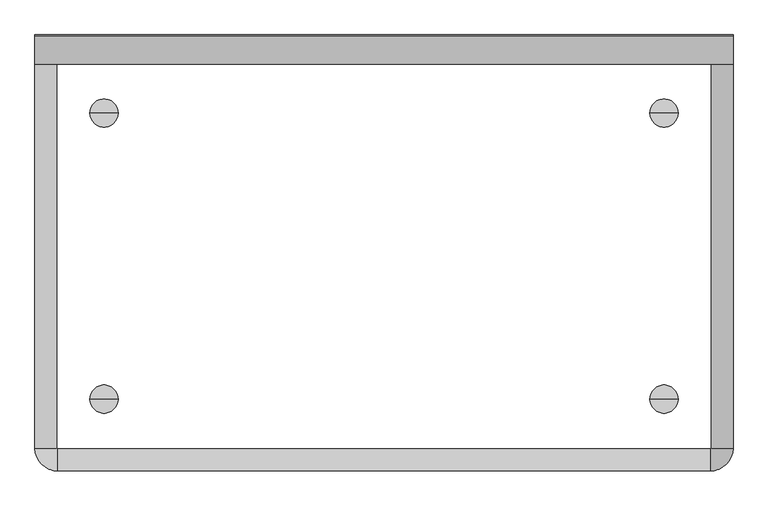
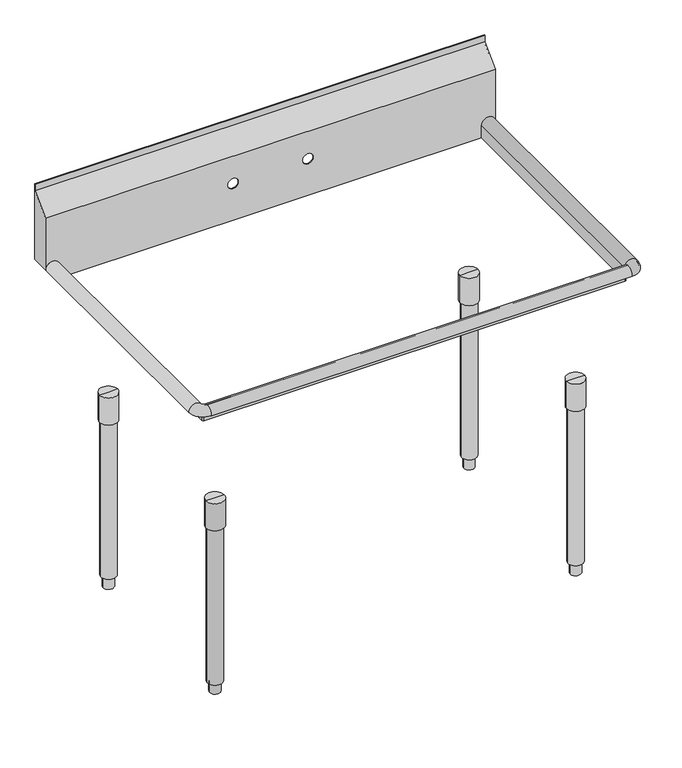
"""IFC4 building model written with IfcOpenShell, lengths in millimetres: flow terminal geometry, equip-sink-elkaySSP-economy-DBL : ByType."""

from ifc_helpers import new_model, si_unit, point, frame, origin, place, context, project, spatial, polyline, circle_curve, ellipse_curve, trimmed, source, transform, mapped, element, save
from ifc_brep_helpers import plane_surface, cylinder_surface, revolved_surface, advanced_brep


def flow_terminal_d265f877(model_context):
    return source(origin(), model_context, "Body", "AdvancedBrep", [
        advanced_brep(
        [(-608.0125, 331.7875, 892.175), (-608.0125, 381.0, 892.175), (-608.0125, 381.0, 1088.367436), (-608.0125, 331.7875, 1039.154936), (-609.6, 330.2, 892.175), (-609.6, 330.2, 1039.8125), (-609.6, 379.4125, 1089.025), (-609.6, 379.4125, 1108.075), (-609.6, 381.0, 1108.075), (-609.6, 381.0, 892.175), (-571.5, 331.7875, 892.175), (-571.5, 330.2, 892.175), (609.6, 381.0, 1108.075), (609.6, 379.4125, 1108.075), (609.6, 379.4125, 1089.025), (609.6, 330.2, 1039.8125), (609.6, 330.2, 892.175), (609.6, 381.0, 892.175), (608.0125, 381.0, 1088.367436), (608.0125, 381.0, 892.175), (608.0125, 331.7875, 892.175), (608.0125, 331.7875, 1039.154936), (571.5, 330.2, 892.175), (571.5, 331.7875, 892.175), (571.5, 330.2, 857.25), (571.5, 331.7875, 857.25), (-571.5, 331.7875, 857.25), (-571.5, 330.2, 857.25), (-115.8875, 331.7875, 962.025), (-87.3125, 331.7875, 962.025), (87.3125, 331.7875, 962.025), (115.8875, 331.7875, 962.025), (-87.3125, 330.2, 962.025), (-115.8875, 330.2, 962.025), (115.8875, 330.2, 962.025), (87.3125, 330.2, 962.025)],
        [
            (0, 1),
            (1, 2),
            (2, 3),
            (3, 0),
            (4, 5),
            (5, 6),
            (6, 7),
            (7, 8),
            (8, 9),
            (9, 4),
            (0, 10),
            (10, 11),
            (11, 4),
            (9, 1),
            (12, 13),
            (13, 14),
            (14, 15),
            (15, 16),
            (16, 17),
            (17, 12),
            (18, 19),
            (19, 20),
            (20, 21),
            (21, 18),
            (16, 22),
            (22, 23),
            (23, 20),
            (19, 17),
            (24, 25),
            (25, 23),
            (22, 24),
            (26, 27),
            (27, 11),
            (10, 26),
            (24, 27),
            (26, 25),
            (3, 21),
            (28, 29, circle_curve(frame((-101.6, 331.7875, 962.025), z_axis=(0.0, -1.0, 0.0), x_axis=(1.0, 0.0, 0.0)), 14.2875)),
            (29, 28, circle_curve(frame((-101.6, 331.7875, 962.025), z_axis=(0.0, -1.0, 0.0), x_axis=(1.0, 0.0, 0.0)), 14.2875)),
            (30, 31, circle_curve(frame((101.6, 331.7875, 962.025), z_axis=(0.0, -1.0, 0.0), x_axis=(1.0, 0.0, 0.0)), 14.2875)),
            (31, 30, circle_curve(frame((101.6, 331.7875, 962.025), z_axis=(0.0, -1.0, 0.0), x_axis=(1.0, 0.0, 0.0)), 14.2875)),
            (2, 18),
            (8, 12),
            (5, 15),
            (14, 6),
            (32, 33, circle_curve(frame((-101.6, 330.2, 962.025), z_axis=(0.0, 1.0, 0.0), x_axis=(1.0, 0.0, 0.0)), 14.2875)),
            (33, 32, circle_curve(frame((-101.6, 330.2, 962.025), z_axis=(0.0, 1.0, 0.0), x_axis=(1.0, 0.0, 0.0)), 14.2875)),
            (34, 35, circle_curve(frame((101.6, 330.2, 962.025), z_axis=(0.0, 1.0, 0.0), x_axis=(1.0, 0.0, 0.0)), 14.2875)),
            (35, 34, circle_curve(frame((101.6, 330.2, 962.025), z_axis=(0.0, 1.0, 0.0), x_axis=(1.0, 0.0, 0.0)), 14.2875)),
            (7, 13),
            (32, 29),
            (28, 33),
            (34, 31),
            (30, 35),
        ],
        [
            plane_surface(frame((-608.0125, 331.7875, 1039.154936), z_axis=(1.0, 0.0, 0.0), x_axis=(0.0, 0.0, -1.0))),
            plane_surface(frame((-609.6, 331.7875, 1039.154936), z_axis=(-1.0, 0.0, 0.0), x_axis=(0.0, 0.0, 1.0))),
            plane_surface(frame((-608.0125, 331.7875, 892.175), z_axis=(0.0, 0.0, -1.0), x_axis=(-1.0, 0.0, 0.0))),
            plane_surface(frame((609.6, 331.7875, 1039.154936), z_axis=(1.0, 0.0, 0.0), x_axis=(0.0, 0.0, -1.0))),
            plane_surface(frame((608.0125, 331.7875, 1039.154936), z_axis=(-1.0, 0.0, 0.0), x_axis=(0.0, 0.0, 1.0))),
            plane_surface(frame((609.6, 331.7875, 892.175), z_axis=(0.0, 0.0, -1.0), x_axis=(-1.0, 0.0, 0.0))),
            plane_surface(frame((571.5, 330.2, 857.25), z_axis=(1.0, 0.0, 0.0), x_axis=(0.0, 1.0, 0.0))),
            plane_surface(frame((-571.5, 330.2, 857.25), z_axis=(-1.0, 0.0, 0.0), x_axis=(0.0, -1.0, 0.0))),
            plane_surface(frame((571.5, 330.2, 857.25), z_axis=(0.0, 0.0, -1.0), x_axis=(-1.0, 0.0, 0.0))),
            plane_surface(frame((571.5, 331.7875, 857.25), z_axis=(0.0, 1.0, 0.0), x_axis=(-1.0, 0.0, 0.0))),
            plane_surface(frame((571.5, 331.7875, 1039.154936), z_axis=(0.0, 0.7071067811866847, -0.7071067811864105), x_axis=(-1.0, 0.0, 0.0))),
            plane_surface(frame((571.5, 381.0, 1088.367436), z_axis=(0.0, 1.0, 0.0), x_axis=(-1.0, 0.0, 0.0))),
            plane_surface(frame((571.5, 379.4125, 1089.025), z_axis=(0.0, -0.7071067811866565, 0.7071067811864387), x_axis=(-1.0, 0.0, 0.0))),
            plane_surface(frame((571.5, 330.2, 1039.8125), z_axis=(0.0, -1.0, 0.0), x_axis=(-1.0, 0.0, 0.0))),
            plane_surface(frame((571.5, 381.0, 1108.075), z_axis=(0.0, 0.0, 1.0), x_axis=(-1.0, 0.0, 0.0))),
            plane_surface(frame((571.5, 379.4125, 1108.075), z_axis=(0.0, -1.0, 0.0), x_axis=(-1.0, 0.0, 0.0))),
            revolved_surface(polyline([(-87.3125, 330.2, 962.025), (-87.3125, 331.7875, 962.025)]), (-101.6, 331.7875, 962.025), (0.0, -1.0, 0.0)),
            revolved_surface(polyline([(115.88749999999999, 330.2, 962.025), (115.88749999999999, 331.7875, 962.025)]), (101.6, 331.7875, 962.025), (0.0, -1.0, 0.0)),
        ],
        [
            (0, [[1, 2, 3, 4]]),
            (1, [[5, 6, 7, 8, 9, 10]]),
            (2, [[-1, 11, 12, 13, -10, 14]]),
            (3, [[15, 16, 17, 18, 19, 20]]),
            (4, [[21, 22, 23, 24]]),
            (5, [[-19, 25, 26, 27, -22, 28]]),
            (6, [[29, 30, -26, 31]]),
            (7, [[32, 33, -12, 34]]),
            (8, [[-29, 35, -32, 36]]),
            (9, [[-36, -34, -11, -4, 37, -23, -27, -30], [38, 39], [40, 41]]),
            (10, [[-37, -3, 42, -24]]),
            (11, [[-42, -2, -14, -9, 43, -20, -28, -21]]),
            (12, [[-6, 44, -17, 45]]),
            (13, [[-35, -31, -25, -18, -44, -5, -13, -33], [46, 47], [48, 49]]),
            (14, [[-43, -8, 50, -15]]),
            (15, [[-50, -7, -45, -16]]),
            (16, [[51, -38, 52, -46]]),
            (16, [[-51, -47, -52, -39]]),
            (17, [[53, -40, 54, -48]]),
            (17, [[-53, -49, -54, -41]]),
        ],
    ),
        advanced_brep(
        [(-509.5875, 244.475, 30.1625), (-468.3125, 244.475, 30.1625), (-468.3125, 244.475, 474.98), (-509.5875, 244.475, 474.98), (-464.312, 244.475, 474.98), (-513.588, 244.475, 474.98), (-464.312, 244.475, 552.45), (-513.588, 244.475, 552.45), (-488.95, 244.475, 552.45), (-488.95, 244.475, -3.175), (-474.6625, 244.475, -3.175), (-503.2375, 244.475, -3.175), (-474.6625, 244.475, 30.1625), (-503.2375, 244.475, 30.1625)],
        [
            (0, 1, circle_curve(frame((-488.95, 244.475, 30.1625), z_axis=(0.0, 0.0, 1.0), x_axis=(1.0, 0.0, 0.0)), 20.6375)),
            (1, 2),
            (2, 3, circle_curve(frame((-488.95, 244.475, 474.98), z_axis=(0.0, 0.0, -1.0), x_axis=(1.0, 0.0, 0.0)), 20.6375)),
            (3, 0),
            (1, 0, circle_curve(frame((-488.95, 244.475, 30.1625), z_axis=(0.0, 0.0, 1.0), x_axis=(1.0, 0.0, 0.0)), 20.6375)),
            (3, 2, circle_curve(frame((-488.95, 244.475, 474.98), z_axis=(0.0, 0.0, -1.0), x_axis=(1.0, 0.0, 0.0)), 20.6375)),
            (2, 4),
            (4, 5, circle_curve(frame((-488.95, 244.475, 474.98), z_axis=(0.0, 0.0, -1.0), x_axis=(1.0, 0.0, 0.0)), 24.638)),
            (5, 3),
            (5, 4, circle_curve(frame((-488.95, 244.475, 474.98), z_axis=(0.0, 0.0, -1.0), x_axis=(1.0, 0.0, 0.0)), 24.638)),
            (4, 6),
            (6, 7, circle_curve(frame((-488.95, 244.475, 552.45), z_axis=(0.0, 0.0, -1.0), x_axis=(1.0, 0.0, 0.0)), 24.638)),
            (7, 5),
            (7, 6, circle_curve(frame((-488.95, 244.475, 552.45), z_axis=(0.0, 0.0, -1.0), x_axis=(1.0, 0.0, 0.0)), 24.638)),
            (6, 8),
            (8, 7),
            (9, 10),
            (10, 11, circle_curve(frame((-488.95, 244.475, -3.175), z_axis=(0.0, 0.0, -1.0), x_axis=(1.0, 0.0, 0.0)), 14.2875)),
            (11, 9),
            (11, 10, circle_curve(frame((-488.95, 244.475, -3.175), z_axis=(0.0, 0.0, -1.0), x_axis=(1.0, 0.0, 0.0)), 14.2875)),
            (10, 12),
            (12, 13, circle_curve(frame((-488.95, 244.475, 30.1625), z_axis=(0.0, 0.0, -1.0), x_axis=(1.0, 0.0, 0.0)), 14.2875)),
            (13, 11),
            (13, 12, circle_curve(frame((-488.95, 244.475, 30.1625), z_axis=(0.0, 0.0, -1.0), x_axis=(1.0, 0.0, 0.0)), 14.2875)),
            (12, 1),
            (0, 13),
        ],
        [
            cylinder_surface(frame((-488.95, 244.475, 552.45), z_axis=(0.0, 0.0, -1.0), x_axis=(1.0, 0.0, 0.0)), 20.6375),
            plane_surface(frame((-488.95, 244.475, 474.98), z_axis=(0.0, 0.0, -1.0), x_axis=(1.0, 0.0, 0.0))),
            cylinder_surface(frame((-488.95, 244.475, 552.45), z_axis=(0.0, 0.0, -1.0), x_axis=(1.0, 0.0, 0.0)), 24.638),
            plane_surface(frame((-488.95, 244.475, 552.45), z_axis=(0.0, 0.0, 1.0), x_axis=(1.0, 0.0, 0.0))),
            plane_surface(frame((-488.95, 244.475, -3.175), z_axis=(0.0, 0.0, -1.0), x_axis=(1.0, 0.0, 0.0))),
            cylinder_surface(frame((-488.95, 244.475, 552.45), z_axis=(0.0, 0.0, -1.0), x_axis=(1.0, 0.0, 0.0)), 14.2875),
            plane_surface(frame((-488.95, 244.475, 30.1625), z_axis=(0.0, 0.0, -1.0), x_axis=(1.0, 0.0, 0.0))),
        ],
        [
            (0, [[1, 2, 3, 4]]),
            (0, [[5, -4, 6, -2]]),
            (1, [[-3, 7, 8, 9]]),
            (1, [[-6, -9, 10, -7]]),
            (2, [[-8, 11, 12, 13]]),
            (2, [[-10, -13, 14, -11]]),
            (3, [[-12, 15, 16]]),
            (3, [[-14, -16, -15]]),
            (4, [[17, 18, 19]]),
            (4, [[-19, 20, -17]]),
            (5, [[-18, 21, 22, 23]]),
            (5, [[-20, -23, 24, -21]]),
            (6, [[-22, 25, -1, 26]]),
            (6, [[-24, -26, -5, -25]]),
        ],
    ),
        advanced_brep(
        [(468.3125, 244.475, 30.1625), (509.5875, 244.475, 30.1625), (509.5875, 244.475, 474.98), (468.3125, 244.475, 474.98), (513.588, 244.475, 474.98), (464.312, 244.475, 474.98), (513.588, 244.475, 552.45), (464.312, 244.475, 552.45), (488.95, 244.475, 552.45), (488.95, 244.475, -3.175), (503.2375, 244.475, -3.175), (474.6625, 244.475, -3.175), (503.2375, 244.475, 30.1625), (474.6625, 244.475, 30.1625)],
        [
            (0, 1, circle_curve(frame((488.95, 244.475, 30.1625), z_axis=(0.0, 0.0, 1.0), x_axis=(1.0, 0.0, 0.0)), 20.6375)),
            (1, 2),
            (2, 3, circle_curve(frame((488.95, 244.475, 474.98), z_axis=(0.0, 0.0, -1.0), x_axis=(1.0, 0.0, 0.0)), 20.6375)),
            (3, 0),
            (1, 0, circle_curve(frame((488.95, 244.475, 30.1625), z_axis=(0.0, 0.0, 1.0), x_axis=(1.0, 0.0, 0.0)), 20.6375)),
            (3, 2, circle_curve(frame((488.95, 244.475, 474.98), z_axis=(0.0, 0.0, -1.0), x_axis=(1.0, 0.0, 0.0)), 20.6375)),
            (2, 4),
            (4, 5, circle_curve(frame((488.95, 244.475, 474.98), z_axis=(0.0, 0.0, -1.0), x_axis=(1.0, 0.0, 0.0)), 24.638)),
            (5, 3),
            (5, 4, circle_curve(frame((488.95, 244.475, 474.98), z_axis=(0.0, 0.0, -1.0), x_axis=(1.0, 0.0, 0.0)), 24.638)),
            (4, 6),
            (6, 7, circle_curve(frame((488.95, 244.475, 552.45), z_axis=(0.0, 0.0, -1.0), x_axis=(1.0, 0.0, 0.0)), 24.638)),
            (7, 5),
            (7, 6, circle_curve(frame((488.95, 244.475, 552.45), z_axis=(0.0, 0.0, -1.0), x_axis=(1.0, 0.0, 0.0)), 24.638)),
            (6, 8),
            (8, 7),
            (9, 10),
            (10, 11, circle_curve(frame((488.95, 244.475, -3.175), z_axis=(0.0, 0.0, -1.0), x_axis=(1.0, 0.0, 0.0)), 14.2875)),
            (11, 9),
            (11, 10, circle_curve(frame((488.95, 244.475, -3.175), z_axis=(0.0, 0.0, -1.0), x_axis=(1.0, 0.0, 0.0)), 14.2875)),
            (10, 12),
            (12, 13, circle_curve(frame((488.95, 244.475, 30.1625), z_axis=(0.0, 0.0, -1.0), x_axis=(1.0, 0.0, 0.0)), 14.2875)),
            (13, 11),
            (13, 12, circle_curve(frame((488.95, 244.475, 30.1625), z_axis=(0.0, 0.0, -1.0), x_axis=(1.0, 0.0, 0.0)), 14.2875)),
            (12, 1),
            (0, 13),
        ],
        [
            cylinder_surface(frame((488.95, 244.475, 552.45), z_axis=(0.0, 0.0, -1.0), x_axis=(1.0, 0.0, 0.0)), 20.6375),
            plane_surface(frame((488.95, 244.475, 474.98), z_axis=(0.0, 0.0, -1.0), x_axis=(1.0, 0.0, 0.0))),
            cylinder_surface(frame((488.95, 244.475, 552.45), z_axis=(0.0, 0.0, -1.0), x_axis=(1.0, 0.0, 0.0)), 24.638),
            plane_surface(frame((488.95, 244.475, 552.45), z_axis=(0.0, 0.0, 1.0), x_axis=(1.0, 0.0, 0.0))),
            plane_surface(frame((488.95, 244.475, -3.175), z_axis=(0.0, 0.0, -1.0), x_axis=(1.0, 0.0, 0.0))),
            cylinder_surface(frame((488.95, 244.475, 552.45), z_axis=(0.0, 0.0, -1.0), x_axis=(1.0, 0.0, 0.0)), 14.2875),
            plane_surface(frame((488.95, 244.475, 30.1625), z_axis=(0.0, 0.0, -1.0), x_axis=(1.0, 0.0, 0.0))),
        ],
        [
            (0, [[1, 2, 3, 4]]),
            (0, [[5, -4, 6, -2]]),
            (1, [[-3, 7, 8, 9]]),
            (1, [[-6, -9, 10, -7]]),
            (2, [[-8, 11, 12, 13]]),
            (2, [[-10, -13, 14, -11]]),
            (3, [[-12, 15, 16]]),
            (3, [[-14, -16, -15]]),
            (4, [[17, 18, 19]]),
            (4, [[-19, 20, -17]]),
            (5, [[-18, 21, 22, 23]]),
            (5, [[-20, -23, 24, -21]]),
            (6, [[-22, 25, -1, 26]]),
            (6, [[-24, -26, -5, -25]]),
        ],
    ),
        advanced_brep(
        [(468.3125, -255.5875, 30.1625), (509.5875, -255.5875, 30.1625), (509.5875, -255.5875, 474.98), (468.3125, -255.5875, 474.98), (513.588, -255.5875, 474.98), (464.312, -255.5875, 474.98), (513.588, -255.5875, 552.45), (464.312, -255.5875, 552.45), (488.95, -255.5875, 552.45), (488.95, -255.5875, -3.175), (503.2375, -255.5875, -3.175), (474.6625, -255.5875, -3.175), (503.2375, -255.5875, 30.1625), (474.6625, -255.5875, 30.1625)],
        [
            (0, 1, circle_curve(frame((488.95, -255.5875, 30.1625), z_axis=(0.0, 0.0, 1.0), x_axis=(1.0, 0.0, 0.0)), 20.6375)),
            (1, 2),
            (2, 3, circle_curve(frame((488.95, -255.5875, 474.98), z_axis=(0.0, 0.0, -1.0), x_axis=(1.0, 0.0, 0.0)), 20.6375)),
            (3, 0),
            (1, 0, circle_curve(frame((488.95, -255.5875, 30.1625), z_axis=(0.0, 0.0, 1.0), x_axis=(1.0, 0.0, 0.0)), 20.6375)),
            (3, 2, circle_curve(frame((488.95, -255.5875, 474.98), z_axis=(0.0, 0.0, -1.0), x_axis=(1.0, 0.0, 0.0)), 20.6375)),
            (2, 4),
            (4, 5, circle_curve(frame((488.95, -255.5875, 474.98), z_axis=(0.0, 0.0, -1.0), x_axis=(1.0, 0.0, 0.0)), 24.638)),
            (5, 3),
            (5, 4, circle_curve(frame((488.95, -255.5875, 474.98), z_axis=(0.0, 0.0, -1.0), x_axis=(1.0, 0.0, 0.0)), 24.638)),
            (4, 6),
            (6, 7, circle_curve(frame((488.95, -255.5875, 552.45), z_axis=(0.0, 0.0, -1.0), x_axis=(1.0, 0.0, 0.0)), 24.638)),
            (7, 5),
            (7, 6, circle_curve(frame((488.95, -255.5875, 552.45), z_axis=(0.0, 0.0, -1.0), x_axis=(1.0, 0.0, 0.0)), 24.638)),
            (6, 8),
            (8, 7),
            (9, 10),
            (10, 11, circle_curve(frame((488.95, -255.5875, -3.175), z_axis=(0.0, 0.0, -1.0), x_axis=(1.0, 0.0, 0.0)), 14.2875)),
            (11, 9),
            (11, 10, circle_curve(frame((488.95, -255.5875, -3.175), z_axis=(0.0, 0.0, -1.0), x_axis=(1.0, 0.0, 0.0)), 14.2875)),
            (10, 12),
            (12, 13, circle_curve(frame((488.95, -255.5875, 30.1625), z_axis=(0.0, 0.0, -1.0), x_axis=(1.0, 0.0, 0.0)), 14.2875)),
            (13, 11),
            (13, 12, circle_curve(frame((488.95, -255.5875, 30.1625), z_axis=(0.0, 0.0, -1.0), x_axis=(1.0, 0.0, 0.0)), 14.2875)),
            (12, 1),
            (0, 13),
        ],
        [
            cylinder_surface(frame((488.95, -255.5875, 552.45), z_axis=(0.0, 0.0, -1.0), x_axis=(1.0, 0.0, 0.0)), 20.6375),
            plane_surface(frame((488.95, -255.5875, 474.98), z_axis=(0.0, 0.0, -1.0), x_axis=(1.0, 0.0, 0.0))),
            cylinder_surface(frame((488.95, -255.5875, 552.45), z_axis=(0.0, 0.0, -1.0), x_axis=(1.0, 0.0, 0.0)), 24.638),
            plane_surface(frame((488.95, -255.5875, 552.45), z_axis=(0.0, 0.0, 1.0), x_axis=(1.0, 0.0, 0.0))),
            plane_surface(frame((488.95, -255.5875, -3.175), z_axis=(0.0, 0.0, -1.0), x_axis=(1.0, 0.0, 0.0))),
            cylinder_surface(frame((488.95, -255.5875, 552.45), z_axis=(0.0, 0.0, -1.0), x_axis=(1.0, 0.0, 0.0)), 14.2875),
            plane_surface(frame((488.95, -255.5875, 30.1625), z_axis=(0.0, 0.0, -1.0), x_axis=(1.0, 0.0, 0.0))),
        ],
        [
            (0, [[1, 2, 3, 4]]),
            (0, [[5, -4, 6, -2]]),
            (1, [[-3, 7, 8, 9]]),
            (1, [[-6, -9, 10, -7]]),
            (2, [[-8, 11, 12, 13]]),
            (2, [[-10, -13, 14, -11]]),
            (3, [[-12, 15, 16]]),
            (3, [[-14, -16, -15]]),
            (4, [[17, 18, 19]]),
            (4, [[-19, 20, -17]]),
            (5, [[-18, 21, 22, 23]]),
            (5, [[-20, -23, 24, -21]]),
            (6, [[-22, 25, -1, 26]]),
            (6, [[-24, -26, -5, -25]]),
        ],
    ),
        advanced_brep(
        [(-468.3125, -255.5875, 30.1625), (-509.5875, -255.5875, 30.1625), (-503.2375, -255.5875, 30.1625), (-474.6625, -255.5875, 30.1625), (-503.2375, -255.5875, 0.0), (-474.6625, -255.5875, 0.0), (-488.95, -255.5875, 0.0), (-488.95, -255.5875, 552.45), (-513.588, -255.5875, 552.45), (-464.312, -255.5875, 552.45), (-513.588, -255.5875, 474.98), (-464.312, -255.5875, 474.98), (-509.5875, -255.5875, 474.98), (-468.3125, -255.5875, 474.98)],
        [
            (0, 1, circle_curve(frame((-488.95, -255.5875, 30.1625), z_axis=(0.0, 0.0, -1.0), x_axis=(-1.0, 0.0, 0.0)), 20.6375)),
            (1, 2),
            (2, 3, circle_curve(frame((-488.95, -255.5875, 30.1625), z_axis=(0.0, 0.0, 1.0), x_axis=(-1.0, 0.0, 0.0)), 14.2875)),
            (3, 0),
            (1, 0, circle_curve(frame((-488.95, -255.5875, 30.1625), z_axis=(0.0, 0.0, -1.0), x_axis=(-1.0, 0.0, 0.0)), 20.6375)),
            (3, 2, circle_curve(frame((-488.95, -255.5875, 30.1625), z_axis=(0.0, 0.0, 1.0), x_axis=(-1.0, 0.0, 0.0)), 14.2875)),
            (2, 4),
            (4, 5, circle_curve(frame((-488.95, -255.5875, 0.0), z_axis=(0.0, 0.0, 1.0), x_axis=(-1.0, 0.0, 0.0)), 14.2875)),
            (5, 3),
            (5, 4, circle_curve(frame((-488.95, -255.5875, 0.0), z_axis=(0.0, 0.0, 1.0), x_axis=(-1.0, 0.0, 0.0)), 14.2875)),
            (4, 6),
            (6, 5),
            (7, 8),
            (8, 9, circle_curve(frame((-488.95, -255.5875, 552.45), z_axis=(0.0, 0.0, 1.0), x_axis=(-1.0, 0.0, 0.0)), 24.638)),
            (9, 7),
            (9, 8, circle_curve(frame((-488.95, -255.5875, 552.45), z_axis=(0.0, 0.0, 1.0), x_axis=(-1.0, 0.0, 0.0)), 24.638)),
            (8, 10),
            (10, 11, circle_curve(frame((-488.95, -255.5875, 474.98), z_axis=(0.0, 0.0, 1.0), x_axis=(-1.0, 0.0, 0.0)), 24.638)),
            (11, 9),
            (11, 10, circle_curve(frame((-488.95, -255.5875, 474.98), z_axis=(0.0, 0.0, 1.0), x_axis=(-1.0, 0.0, 0.0)), 24.638)),
            (10, 12),
            (12, 13, circle_curve(frame((-488.95, -255.5875, 474.98), z_axis=(0.0, 0.0, 1.0), x_axis=(-1.0, 0.0, 0.0)), 20.6375)),
            (13, 11),
            (13, 12, circle_curve(frame((-488.95, -255.5875, 474.98), z_axis=(0.0, 0.0, 1.0), x_axis=(-1.0, 0.0, 0.0)), 20.6375)),
            (12, 1),
            (0, 13),
        ],
        [
            plane_surface(frame((-488.95, -255.5875, 30.1625), z_axis=(0.0, 0.0, -1.0), x_axis=(-1.0, 0.0, 0.0))),
            cylinder_surface(frame((-488.95, -255.5875, 552.45), z_axis=(0.0, 0.0, 1.0), x_axis=(-1.0, 0.0, 0.0)), 14.2875),
            plane_surface(frame((-488.95, -255.5875, 0.0), z_axis=(0.0, 0.0, -1.0), x_axis=(-1.0, 0.0, 0.0))),
            plane_surface(frame((-488.95, -255.5875, 552.45), z_axis=(0.0, 0.0, 1.0), x_axis=(-1.0, 0.0, 0.0))),
            cylinder_surface(frame((-488.95, -255.5875, 552.45), z_axis=(0.0, 0.0, 1.0), x_axis=(-1.0, 0.0, 0.0)), 24.638),
            plane_surface(frame((-488.95, -255.5875, 474.98), z_axis=(0.0, 0.0, -1.0), x_axis=(-1.0, 0.0, 0.0))),
            cylinder_surface(frame((-488.95, -255.5875, 552.45), z_axis=(0.0, 0.0, 1.0), x_axis=(-1.0, 0.0, 0.0)), 20.6375),
        ],
        [
            (0, [[1, 2, 3, 4]]),
            (0, [[5, -4, 6, -2]]),
            (1, [[-3, 7, 8, 9]]),
            (1, [[-6, -9, 10, -7]]),
            (2, [[-8, 11, 12]]),
            (2, [[-10, -12, -11]]),
            (3, [[13, 14, 15]]),
            (3, [[-15, 16, -13]]),
            (4, [[-14, 17, 18, 19]]),
            (4, [[-16, -19, 20, -17]]),
            (5, [[-18, 21, 22, 23]]),
            (5, [[-20, -23, 24, -21]]),
            (6, [[-22, 25, -1, 26]]),
            (6, [[-24, -26, -5, -25]]),
        ],
    ),
        advanced_brep(
        [(609.6, 330.2, 892.175), (606.425, 330.2, 892.175), (574.675, 330.2, 892.175), (574.675, 330.2, 857.25), (571.5, 330.2, 857.25), (571.5, 330.2, 892.175), (-609.6, 330.2, 892.175), (-571.5, 330.2, 892.175), (-571.5, 330.2, 857.25), (-574.675, 330.2, 857.25), (-574.675, 330.2, 892.175), (-606.425, 330.2, 892.175), (609.6, -341.3125, 892.175), (569.9125, -381.0, 892.175), (-569.9125, -381.0, 892.175), (-609.6, -341.3125, 892.175), (-606.425, -341.3125, 892.175), (-569.9125, -377.825, 892.175), (569.9125, -377.825, 892.175), (606.425, -341.3125, 892.175), (574.675, -341.3125, 892.175), (574.675, -341.3125, 857.25), (571.5, -341.3125, 857.25), (571.5, -341.3125, 892.175), (569.9125, -346.075, 892.175), (-569.9125, -346.075, 892.175), (569.9125, -346.075, 857.25), (-569.9125, -346.075, 857.25), (569.9125, -342.9, 892.175), (569.9125, -342.9, 857.25), (-569.9125, -342.9, 857.25), (-569.9125, -342.9, 892.175), (-574.675, -341.3125, 892.175), (-574.675, -341.3125, 857.25), (-571.5, -341.3125, 892.175), (-571.5, -341.3125, 857.25)],
        [
            (0, 1),
            (1, 2, circle_curve(frame((590.55, 330.2, 892.175), z_axis=(0.0, -1.0, 0.0), x_axis=(1.0, 0.0, 0.0)), 15.875)),
            (2, 3),
            (3, 4),
            (4, 5),
            (5, 0, circle_curve(frame((590.55, 330.2, 892.175), z_axis=(0.0, 1.0, 0.0), x_axis=(1.0, 0.0, 0.0)), 19.05)),
            (6, 7, circle_curve(frame((-590.55, 330.2, 892.175), z_axis=(0.0, 1.0, 0.0), x_axis=(-1.0, 0.0, 0.0)), 19.05)),
            (7, 8),
            (8, 9),
            (9, 10),
            (10, 11, circle_curve(frame((-590.55, 330.2, 892.175), z_axis=(0.0, -1.0, 0.0), x_axis=(-1.0, 0.0, 0.0)), 15.875)),
            (11, 6),
            (0, 12),
            (12, 13, circle_curve(frame((569.9125, -341.3125, 892.175), z_axis=(0.0, 0.0, -1.0), x_axis=(1.0, 0.0, 0.0)), 39.6875)),
            (13, 14),
            (14, 15, circle_curve(frame((-569.9125, -341.3125, 892.175), z_axis=(0.0, 0.0, -1.0), x_axis=(0.0, -1.0, 0.0)), 39.6875)),
            (15, 6),
            (11, 16),
            (16, 17, circle_curve(frame((-569.9125, -341.3125, 892.175), z_axis=(0.0, 0.0, 1.0), x_axis=(0.0, -1.0, 0.0)), 36.5125)),
            (17, 18),
            (18, 19, circle_curve(frame((569.9125, -341.3125, 892.175), z_axis=(0.0, 0.0, 1.0), x_axis=(1.0, 0.0, 0.0)), 36.5125)),
            (19, 1),
            (19, 20, circle_curve(frame((590.55, -341.3125, 892.175), z_axis=(0.0, -1.0, 0.0), x_axis=(1.0, 0.0, 0.0)), 15.875)),
            (20, 2),
            (20, 21),
            (21, 3),
            (4, 22),
            (22, 23),
            (23, 5),
            (23, 12, circle_curve(frame((590.55, -341.3125, 892.175), z_axis=(0.0, 1.0, 0.0), x_axis=(1.0, 0.0, 0.0)), 19.05)),
            (24, 18, circle_curve(frame((569.9125, -361.95, 892.175), z_axis=(1.0, 0.0, 0.0), x_axis=(0.0, -1.0, 0.0)), 15.875)),
            (17, 25, circle_curve(frame((-569.9125, -361.95, 892.175), z_axis=(-1.0, 0.0, 0.0), x_axis=(0.0, -1.0, 0.0)), 15.875)),
            (25, 24),
            (26, 24),
            (25, 27),
            (27, 26),
            (28, 29),
            (29, 30),
            (30, 31),
            (31, 28),
            (13, 28, circle_curve(frame((569.9125, -361.95, 892.175), z_axis=(-1.0, 0.0, 0.0), x_axis=(0.0, -1.0, 0.0)), 19.05)),
            (31, 14, circle_curve(frame((-569.9125, -361.95, 892.175), z_axis=(1.0, 0.0, 0.0), x_axis=(0.0, -1.0, 0.0)), 19.05)),
            (32, 16, circle_curve(frame((-590.55, -341.3125, 892.175), z_axis=(0.0, -1.0, 0.0), x_axis=(-1.0, 0.0, 0.0)), 15.875)),
            (10, 32),
            (33, 32),
            (9, 33),
            (34, 35),
            (35, 8),
            (7, 34),
            (15, 34, circle_curve(frame((-590.55, -341.3125, 892.175), z_axis=(0.0, 1.0, 0.0), x_axis=(-1.0, 0.0, 0.0)), 19.05)),
            (21, 26, circle_curve(frame((569.9125, -341.3125, 857.25), z_axis=(0.0, 0.0, -1.0), x_axis=(1.0, 0.0, 0.0)), 4.7625)),
            (27, 33, circle_curve(frame((-569.9125, -341.3125, 857.25), z_axis=(0.0, 0.0, -1.0), x_axis=(0.0, -1.0, 0.0)), 4.7625)),
            (35, 30, circle_curve(frame((-569.9125, -341.3125, 857.25), z_axis=(0.0, 0.0, 1.0), x_axis=(0.0, -1.0, 0.0)), 1.5875)),
            (29, 22, circle_curve(frame((569.9125, -341.3125, 857.25), z_axis=(0.0, 0.0, 1.0), x_axis=(1.0, 0.0, 0.0)), 1.5875)),
            (24, 20, circle_curve(frame((569.9125, -341.3125, 892.175), z_axis=(0.0, 0.0, 1.0), x_axis=(1.0, 0.0, 0.0)), 4.7625)),
            (28, 23, circle_curve(frame((569.9125, -341.3125, 892.175), z_axis=(0.0, 0.0, 1.0), x_axis=(1.0, 0.0, 0.0)), 1.5875)),
            (32, 25, circle_curve(frame((-569.9125, -341.3125, 892.175), z_axis=(0.0, 0.0, 1.0), x_axis=(0.0, -1.0, 0.0)), 4.7625)),
            (34, 31, circle_curve(frame((-569.9125, -341.3125, 892.175), z_axis=(0.0, 0.0, 1.0), x_axis=(0.0, -1.0, 0.0)), 1.5875)),
        ],
        [
            plane_surface(frame((609.6, 330.2, 911.225), z_axis=(0.0, 1.0, 0.0), x_axis=(0.0, 0.0, 1.0))),
            plane_surface(frame((-609.6, 330.2, 911.225), z_axis=(0.0, 1.0, 0.0), x_axis=(0.0, 0.0, 1.0))),
            plane_surface(frame((609.6, 330.2, 892.175), z_axis=(0.0, 0.0, -1.0), x_axis=(0.0, -1.0, 0.0))),
            revolved_surface(polyline([(606.425, -341.31250000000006, 892.175), (606.425, 330.2, 892.175)]), (590.55, 330.2, 892.175), (0.0, -1.0, 0.0)),
            plane_surface(frame((574.675, 330.2, 892.175), z_axis=(1.0, 0.0, 0.0), x_axis=(0.0, -1.0, 0.0))),
            plane_surface(frame((571.5, 330.2, 857.25), z_axis=(-1.0, 0.0, 0.0), x_axis=(0.0, -1.0, 0.0))),
            cylinder_surface(frame((590.55, 330.2, 892.175), z_axis=(0.0, 1.0, 0.0), x_axis=(1.0, 0.0, 0.0)), 19.05),
            revolved_surface(polyline([(-569.9125, -377.825, 892.175), (569.9125, -377.825, 892.175)]), (569.9125, -361.95, 892.175), (-1.0, 0.0, 0.0)),
            plane_surface(frame((569.9125, -346.075, 892.175), z_axis=(0.0, -1.0, 0.0), x_axis=(-1.0, 0.0, 0.0))),
            plane_surface(frame((569.9125, -342.9, 857.25), z_axis=(0.0, 1.0, 0.0), x_axis=(-1.0, 0.0, 0.0))),
            cylinder_surface(frame((569.9125, -361.95, 892.175), z_axis=(1.0, 0.0, 0.0), x_axis=(0.0, -1.0, 0.0)), 19.05),
            revolved_surface(polyline([(-606.425, 330.20000000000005, 892.175), (-606.425, -341.3125, 892.175)]), (-590.55, -341.3125, 892.175), (0.0, 1.0, 0.0)),
            plane_surface(frame((-574.675, -341.3125, 892.175), z_axis=(-1.0, 0.0, 0.0), x_axis=(0.0, 1.0, 0.0))),
            plane_surface(frame((-571.5, -341.3125, 857.25), z_axis=(1.0, 0.0, 0.0), x_axis=(0.0, 1.0, 0.0))),
            cylinder_surface(frame((-590.55, -341.3125, 892.175), z_axis=(0.0, -1.0, 0.0), x_axis=(-1.0, 0.0, 0.0)), 19.05),
            plane_surface(frame((574.675, 330.2, 857.25), z_axis=(0.0, 0.0, -1.0), x_axis=(0.0, -1.0, 0.0))),
            revolved_surface(trimmed(ellipse_curve(frame((590.55, -341.3125, 892.175), z_axis=(0.0, -1.0, 0.0), x_axis=(1.0, 0.0, 0.0)), 15.875, 15.875), [point((606.425, -341.3125, 892.175))], [point((574.675, -341.3125, 892.175))], True, "CARTESIAN"), (569.9125, -341.3125, 911.225), (0.0, 0.0, -1.0)),
            cylinder_surface(frame((569.9125, -341.3125, 911.225), z_axis=(0.0, 0.0, -1.0), x_axis=(1.0, 0.0, 0.0)), 4.7625),
            revolved_surface(polyline([(571.5, -341.3125, 857.25), (571.5, -341.3125, 892.175)]), (569.9125, -341.3125, 911.225), (0.0, 0.0, -1.0)),
            revolved_surface(trimmed(ellipse_curve(frame((590.55, -341.3125, 892.175), z_axis=(0.0, 1.0, 0.0), x_axis=(1.0, 0.0, 0.0)), 19.05, 19.05), [point((571.5, -341.3125, 892.175))], [point((609.6, -341.3125, 892.175))], True, "CARTESIAN"), (569.9125, -341.3125, 911.225), (0.0, 0.0, -1.0)),
            revolved_surface(trimmed(ellipse_curve(frame((-569.9125, -361.95, 892.175), z_axis=(-1.0, 0.0, 0.0), x_axis=(0.0, -1.0, 0.0)), 15.875, 15.875), [point((-569.9125, -377.825, 892.175))], [point((-569.9125, -346.075, 892.175))], True, "CARTESIAN"), (-569.9125, -341.3125, 911.225), (0.0, 0.0, -1.0)),
            cylinder_surface(frame((-569.9125, -341.3125, 911.225), z_axis=(0.0, 0.0, -1.0), x_axis=(0.0, -1.0, 0.0)), 4.7625),
            revolved_surface(polyline([(-569.9125, -342.9, 857.25), (-569.9125, -342.9, 892.175)]), (-569.9125, -341.3125, 911.225), (0.0, 0.0, -1.0)),
            revolved_surface(trimmed(ellipse_curve(frame((-569.9125, -361.95, 892.175), z_axis=(1.0, 0.0, 0.0), x_axis=(0.0, -1.0, 0.0)), 19.05, 19.05), [point((-569.9125, -342.9, 892.175))], [point((-569.9125, -381.0, 892.175))], True, "CARTESIAN"), (-569.9125, -341.3125, 911.225), (0.0, 0.0, -1.0)),
        ],
        [
            (0, [[1, 2, 3, 4, 5, 6]]),
            (1, [[7, 8, 9, 10, 11, 12]]),
            (2, [[-1, 13, 14, 15, 16, 17, -12, 18, 19, 20, 21, 22]]),
            (3, [[-2, -22, 23, 24]]),
            (4, [[-3, -24, 25, 26]]),
            (5, [[-5, 27, 28, 29]]),
            (6, [[-6, -29, 30, -13]]),
            (7, [[31, -20, 32, 33]]),
            (8, [[34, -33, 35, 36]]),
            (9, [[37, 38, 39, 40]]),
            (10, [[41, -40, 42, -15]]),
            (11, [[43, -18, -11, 44]]),
            (12, [[45, -44, -10, 46]]),
            (13, [[47, 48, -8, 49]]),
            (14, [[50, -49, -7, -17]]),
            (15, [[-4, -26, 51, -36, 52, -46, -9, -48, 53, -38, 54, -27]]),
            (16, [[55, -23, -21, -31]]),
            (17, [[-51, -25, -55, -34]]),
            (18, [[56, -28, -54, -37]]),
            (19, [[-14, -30, -56, -41]]),
            (20, [[57, -32, -19, -43]]),
            (21, [[-52, -35, -57, -45]]),
            (22, [[58, -39, -53, -47]]),
            (23, [[-16, -42, -58, -50]]),
        ],
    ),
    ])


if __name__ == "__main__":
    model = new_model("IFC4")
    model_context = context("Model", 3, world=origin())
    ifc_project = project(units=[si_unit("LENGTHUNIT", "METRE", prefix="MILLI")], contexts=[model_context])
    site = spatial("IfcSite", under=ifc_project)
    building = spatial("IfcBuilding", under=site)
    placement = place(None, origin())
    flow_terminal_shape = flow_terminal_d265f877(model_context)
    element("IfcFlowTerminal", 1, ObjectType="equip-sink-elkaySSP-economy-DBL : ByType", at=placement, inside=building, context=model_context, shape_type="MappedRepresentation", body=[
        mapped(flow_terminal_shape, transform((0.0, 0.0, 0.0), x_axis=(1.0, 0.0, 0.0), y_axis=(0.0, 1.0, 0.0), z_axis=(0.0, 0.0, 1.0))),
    ])
    save(model, "model.ifc")
